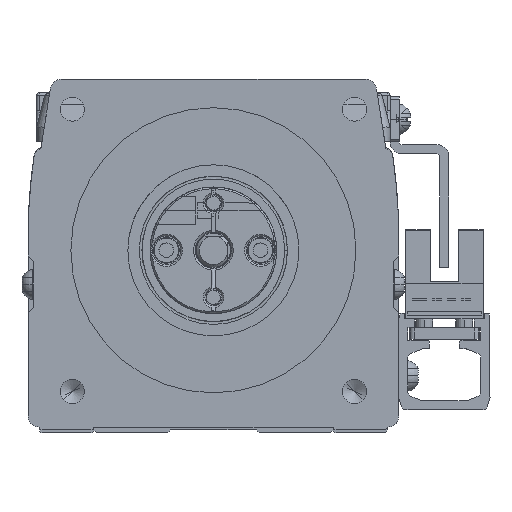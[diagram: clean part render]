
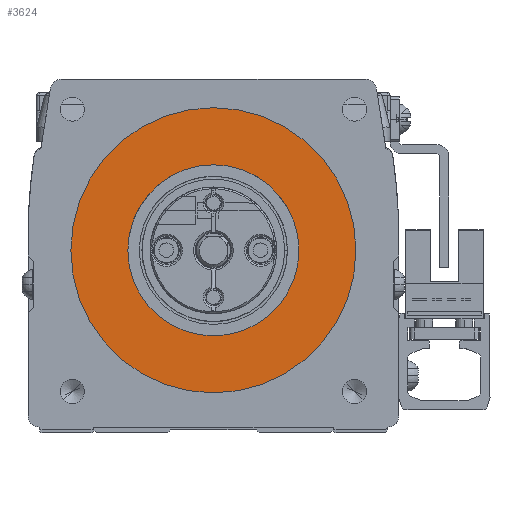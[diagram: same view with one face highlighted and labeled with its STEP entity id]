
A CAD part, left-side view. The second image highlights one B-rep face of the part: STEP entity #3624.
In plain terms, the highlighted planar face has unit normal (-1, 0, 0).
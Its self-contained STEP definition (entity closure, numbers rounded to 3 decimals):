
#3624=ADVANCED_FACE('',(#6535,#6536),#6537,.F.);
#6535=FACE_BOUND('',#12662,.T.);
#6536=FACE_OUTER_BOUND('',#12663,.T.);
#6537=PLANE('',#12664);
#12662=EDGE_LOOP('',(#21024,#21025));
#12663=EDGE_LOOP('',(#21026,#21027));
#12664=AXIS2_PLACEMENT_3D('',#21028,#21029,#21030);
#21024=ORIENTED_EDGE('',*,*,#43955,.T.);
#21025=ORIENTED_EDGE('',*,*,#44053,.T.);
#21026=ORIENTED_EDGE('',*,*,#44086,.T.);
#21027=ORIENTED_EDGE('',*,*,#43947,.T.);
#21028=CARTESIAN_POINT('',(-76.5,0.,0.));
#21029=DIRECTION('',(1.0,0.,0.));
#21030=DIRECTION('',(0.,1.0,0.));
#43947=EDGE_CURVE('',#51386,#51383,#51387,.T.);
#43955=EDGE_CURVE('',#51400,#51397,#51401,.T.);
#44053=EDGE_CURVE('',#51397,#51400,#51562,.T.);
#44086=EDGE_CURVE('',#51383,#51386,#51619,.T.);
#51383=VERTEX_POINT('',#63685);
#51386=VERTEX_POINT('',#63689);
#51387=CIRCLE('',#63690,25.0);
#51397=VERTEX_POINT('',#63725);
#51400=VERTEX_POINT('',#63729);
#51401=CIRCLE('',#63730,15.0);
#51562=CIRCLE('',#64012,15.0);
#51619=CIRCLE('',#64148,25.0);
#63685=CARTESIAN_POINT('',(-76.5,25.,0.));
#63689=CARTESIAN_POINT('',(-76.5,-25.,0.));
#63690=AXIS2_PLACEMENT_3D('',#82461,#82462,#82463);
#63725=CARTESIAN_POINT('',(-76.5,15.0,0.));
#63729=CARTESIAN_POINT('',(-76.5,-15.,0.));
#63730=AXIS2_PLACEMENT_3D('',#82471,#82472,#82473);
#64012=AXIS2_PLACEMENT_3D('',#82631,#82632,#82633);
#64148=AXIS2_PLACEMENT_3D('',#82688,#82689,#82690);
#82461=CARTESIAN_POINT('',(-76.5,0.,0.));
#82462=DIRECTION('',(-1.0,0.,0.));
#82463=DIRECTION('',(0.,1.0,0.));
#82471=CARTESIAN_POINT('',(-76.5,0.,0.));
#82472=DIRECTION('',(1.0,0.,0.));
#82473=DIRECTION('',(0.,1.0,0.));
#82631=CARTESIAN_POINT('',(-76.5,0.,0.));
#82632=DIRECTION('',(1.0,0.,0.));
#82633=DIRECTION('',(0.,1.0,0.));
#82688=CARTESIAN_POINT('',(-76.5,0.,0.));
#82689=DIRECTION('',(-1.0,0.,0.));
#82690=DIRECTION('',(0.,1.0,0.));
